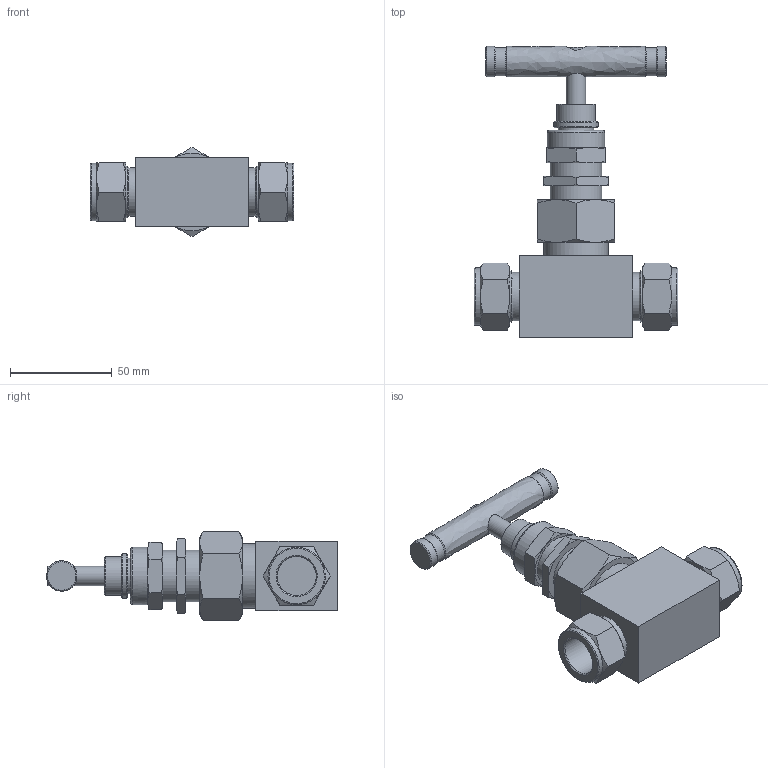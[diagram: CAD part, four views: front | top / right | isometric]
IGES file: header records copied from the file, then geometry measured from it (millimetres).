
Global section: file name: SUNV3-S12-S316; native system: Autodesk Inventor 2016; preprocessor: unknown; author: 이승민,,11,0; organization: 20161215.103245; date: 20161216.192956; units: millimetre
Bounding box: 100.24 x 143.18 x 43.99 mm (x, y, z)
Volume: 165121.4 mm3; surface area: 40811.3 mm2
Topology: 3 solids, 3 shells, 155 faces, 398 edges, 270 vertices
Faces by surface type: bspline 155
